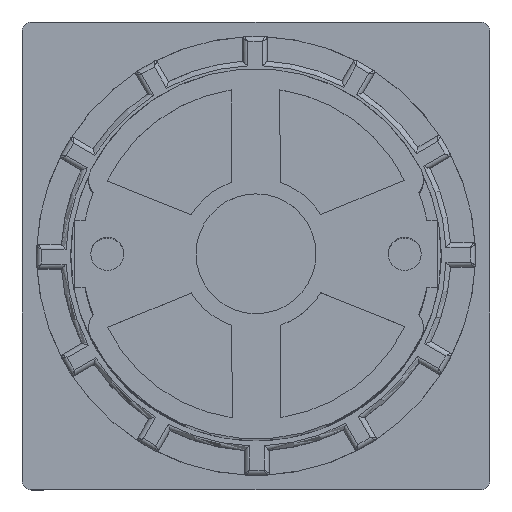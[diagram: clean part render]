
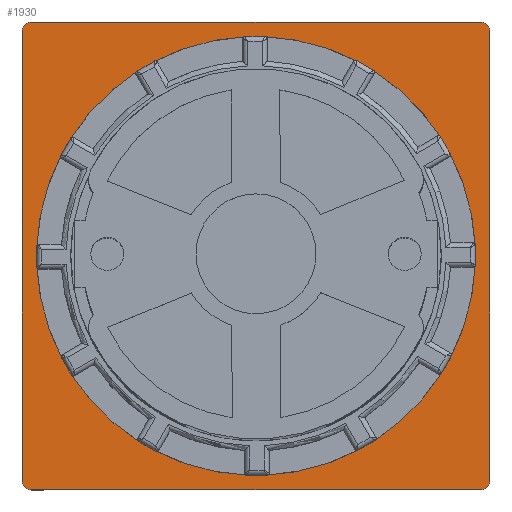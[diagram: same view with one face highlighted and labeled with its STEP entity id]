
A CAD part, top view. The second image highlights one B-rep face of the part: STEP entity #1930.
In plain terms, the highlighted planar face has unit normal (0, 0, 1).
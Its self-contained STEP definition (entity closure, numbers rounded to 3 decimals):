
#1930=ADVANCED_FACE('',(#9587,#9588),#3304,.F.);
#3304=PLANE('',#27302);
#4568=LINE('',#38397,#6946);
#4569=LINE('',#38402,#6947);
#4570=LINE('',#38406,#6948);
#4571=LINE('',#38410,#6949);
#6946=VECTOR('',#30240,1.);
#6947=VECTOR('',#30243,1.);
#6948=VECTOR('',#30246,1.);
#6949=VECTOR('',#30249,1.);
#9587=FACE_BOUND('',#10223,.T.);
#9588=FACE_BOUND('',#10224,.T.);
#10223=EDGE_LOOP('',(#12545,#12546,#12547,#12548,#12549,#12550,#12551,#12552));
#10224=EDGE_LOOP('',(#12553));
#12545=ORIENTED_EDGE('',*,*,#22594,.F.);
#12546=ORIENTED_EDGE('',*,*,#22595,.F.);
#12547=ORIENTED_EDGE('',*,*,#22596,.F.);
#12548=ORIENTED_EDGE('',*,*,#22597,.F.);
#12549=ORIENTED_EDGE('',*,*,#22598,.F.);
#12550=ORIENTED_EDGE('',*,*,#22599,.F.);
#12551=ORIENTED_EDGE('',*,*,#22600,.F.);
#12552=ORIENTED_EDGE('',*,*,#22601,.F.);
#12553=ORIENTED_EDGE('',*,*,#22556,.T.);
#19808=VERTEX_POINT('',#38302);
#19826=VERTEX_POINT('',#38398);
#19827=VERTEX_POINT('',#38399);
#19828=VERTEX_POINT('',#38401);
#19829=VERTEX_POINT('',#38403);
#19830=VERTEX_POINT('',#38405);
#19831=VERTEX_POINT('',#38407);
#19832=VERTEX_POINT('',#38409);
#19833=VERTEX_POINT('',#38411);
#22556=EDGE_CURVE('',#19808,#19808,#26166,.T.);
#22594=EDGE_CURVE('',#19826,#19827,#4568,.T.);
#22595=EDGE_CURVE('',#19828,#19826,#26196,.T.);
#22596=EDGE_CURVE('',#19829,#19828,#4569,.T.);
#22597=EDGE_CURVE('',#19830,#19829,#26197,.T.);
#22598=EDGE_CURVE('',#19831,#19830,#4570,.T.);
#22599=EDGE_CURVE('',#19832,#19831,#26198,.T.);
#22600=EDGE_CURVE('',#19833,#19832,#4571,.T.);
#22601=EDGE_CURVE('',#19827,#19833,#26199,.T.);
#26166=CIRCLE('',#27260,22.5);
#26196=CIRCLE('',#27298,1.);
#26197=CIRCLE('',#27299,1.);
#26198=CIRCLE('',#27300,1.);
#26199=CIRCLE('',#27301,1.);
#27260=AXIS2_PLACEMENT_3D('',#38301,#30156,#30157);
#27298=AXIS2_PLACEMENT_3D('',#38400,#30241,#30242);
#27299=AXIS2_PLACEMENT_3D('',#38404,#30244,#30245);
#27300=AXIS2_PLACEMENT_3D('',#38408,#30247,#30248);
#27301=AXIS2_PLACEMENT_3D('',#38412,#30250,#30251);
#27302=AXIS2_PLACEMENT_3D('',#38413,#30252,#30253);
#30156=DIRECTION('',(0.,0.,-1.));
#30157=DIRECTION('',(0.,1.,0.));
#30240=DIRECTION('',(0.,1.,0.));
#30241=DIRECTION('',(0.,0.,-1.));
#30242=DIRECTION('',(1.,0.,0.));
#30243=DIRECTION('',(-1.,0.,0.));
#30244=DIRECTION('',(0.,0.,-1.));
#30245=DIRECTION('',(1.,0.,0.));
#30246=DIRECTION('',(0.,-1.,0.));
#30247=DIRECTION('',(0.,0.,-1.));
#30248=DIRECTION('',(1.,0.,0.));
#30249=DIRECTION('',(1.,0.,0.));
#30250=DIRECTION('',(0.,0.,-1.));
#30251=DIRECTION('',(1.,0.,0.));
#30252=DIRECTION('',(0.,0.,-1.));
#30253=DIRECTION('',(-1.,0.,0.));
#38301=CARTESIAN_POINT('',(0.,0.,-18.4));
#38302=CARTESIAN_POINT('',(0.,22.5,-18.4));
#38397=CARTESIAN_POINT('',(-24.,-23.,-18.4));
#38398=CARTESIAN_POINT('',(-24.,-23.,-18.4));
#38399=CARTESIAN_POINT('',(-24.,23.,-18.4));
#38400=CARTESIAN_POINT('',(-23.,-23.,-18.4));
#38401=CARTESIAN_POINT('',(-23.,-24.,-18.4));
#38402=CARTESIAN_POINT('',(23.,-24.,-18.4));
#38403=CARTESIAN_POINT('',(23.,-24.,-18.4));
#38404=CARTESIAN_POINT('',(23.,-23.,-18.4));
#38405=CARTESIAN_POINT('',(24.,-23.,-18.4));
#38406=CARTESIAN_POINT('',(24.,23.,-18.4));
#38407=CARTESIAN_POINT('',(24.,23.,-18.4));
#38408=CARTESIAN_POINT('',(23.,23.,-18.4));
#38409=CARTESIAN_POINT('',(23.,24.,-18.4));
#38410=CARTESIAN_POINT('',(-23.,24.,-18.4));
#38411=CARTESIAN_POINT('',(-23.,24.,-18.4));
#38412=CARTESIAN_POINT('',(-23.,23.,-18.4));
#38413=CARTESIAN_POINT('',(-23.,23.,-18.4));
